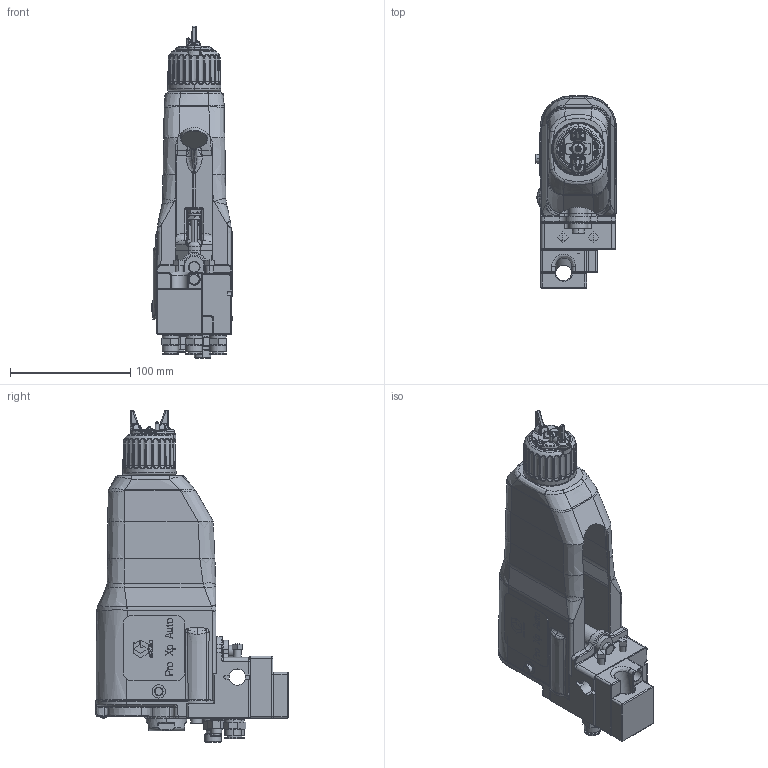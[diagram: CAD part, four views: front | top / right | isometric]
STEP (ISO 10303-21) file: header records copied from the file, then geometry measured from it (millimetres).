
FILE_DESCRIPTION((''),'2;1');
FILE_NAME('HA1T18-EN-K_PRT','2020-01-01T12:06:14',('qusrh3'),(''),'CREO PARAMETRIC BY PTC INC, 2019030','CREO PARAMETRIC BY PTC INC, 2019030','');
FILE_SCHEMA(('CONFIG_CONTROL_DESIGN'));
Products named in the file (1): HA1T18-EN-K_PRT
Bounding box: 67.94 x 159.66 x 275.71 mm (x, y, z)
Surface area: 207709.8 mm2 (no closed solid volume)
Topology: 0 solids, 121 shells, 2529 faces, 7181 edges, 4681 vertices
Faces by surface type: bspline 910, plane 783, cylinder 489, cone 144, torus 118, sphere 55, extrusion 30
Entity records: 136549 total; most frequent: CARTESIAN_POINT 79146, ORIENTED_EDGE 12466, DIRECTION 9940, EDGE_CURVE 7170, VERTEX_POINT 4681, AXIS2_PLACEMENT_3D 3405, VECTOR 3130, LINE 3100
